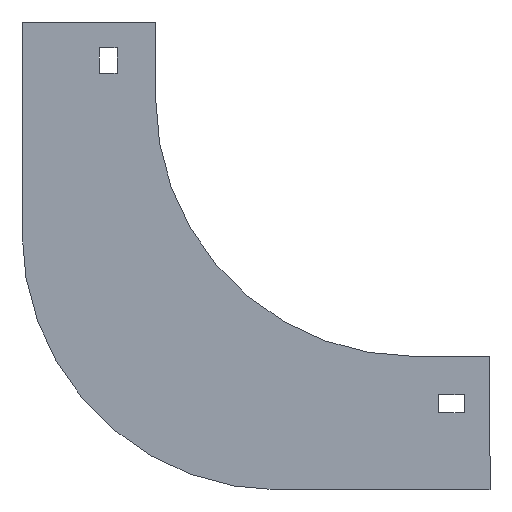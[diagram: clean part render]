
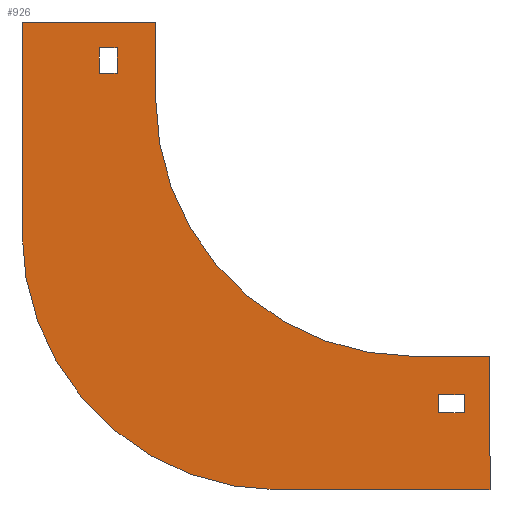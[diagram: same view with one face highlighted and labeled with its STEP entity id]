
A CAD part, left-side view. The second image highlights one B-rep face of the part: STEP entity #926.
In plain terms, the highlighted planar face has unit normal (-1, 0, 0).
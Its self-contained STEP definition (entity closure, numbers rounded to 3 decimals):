
#10 = VERTEX_POINT ( 'NONE', #1020 ) ;
#14 = ORIENTED_EDGE ( 'NONE', *, *, #533, .F. ) ;
#21 = FACE_BOUND ( 'NONE', #855, .T. ) ;
#28 = DIRECTION ( 'NONE',  ( -1., 0., 0. ) ) ;
#40 = ORIENTED_EDGE ( 'NONE', *, *, #1207, .F. ) ;
#46 = AXIS2_PLACEMENT_3D ( 'NONE', #1021, #1308, #354 ) ;
#58 = DIRECTION ( 'NONE',  ( 0., -1., 0. ) ) ;
#73 = CARTESIAN_POINT ( 'NONE',  ( -52., 22., -10. ) ) ;
#78 = LINE ( 'NONE', #917, #619 ) ;
#84 = DIRECTION ( 'NONE',  ( 0., -1., 0. ) ) ;
#85 = LINE ( 'NONE', #333, #1075 ) ;
#123 = CARTESIAN_POINT ( 'NONE',  ( -52., -110., -152. ) ) ;
#129 = VECTOR ( 'NONE', #727, 1000. ) ;
#135 = DIRECTION ( 'NONE',  ( 0., 0., -1. ) ) ;
#151 = CARTESIAN_POINT ( 'NONE',  ( -52., 15., -10. ) ) ;
#159 = CARTESIAN_POINT ( 'NONE',  ( -52., -110., -145. ) ) ;
#161 = EDGE_CURVE ( 'NONE', #1352, #991, #516, .T. ) ;
#169 = CIRCLE ( 'NONE', #193, 100. ) ;
#193 = AXIS2_PLACEMENT_3D ( 'NONE', #885, #28, #702 ) ;
#197 = CARTESIAN_POINT ( 'NONE',  ( -52., 15., -20. ) ) ;
#210 = EDGE_CURVE ( 'NONE', #1405, #1056, #1250, .T. ) ;
#212 = VECTOR ( 'NONE', #1154, 1000. ) ;
#229 = CARTESIAN_POINT ( 'NONE',  ( -52., -130., -130. ) ) ;
#230 = CARTESIAN_POINT ( 'NONE',  ( -52., -48., -82. ) ) ;
#244 = LINE ( 'NONE', #784, #466 ) ;
#254 = LINE ( 'NONE', #906, #309 ) ;
#256 = VERTEX_POINT ( 'NONE', #666 ) ;
#264 = DIRECTION ( 'NONE',  ( 0., 0., -1. ) ) ;
#267 = DIRECTION ( 'NONE',  ( 0., 0., -1. ) ) ;
#274 = CARTESIAN_POINT ( 'NONE',  ( -52., -100., -130. ) ) ;
#278 = VERTEX_POINT ( 'NONE', #859 ) ;
#295 = LINE ( 'NONE', #1043, #212 ) ;
#306 = ORIENTED_EDGE ( 'NONE', *, *, #1263, .F. ) ;
#309 = VECTOR ( 'NONE', #267, 1000. ) ;
#312 = ORIENTED_EDGE ( 'NONE', *, *, #986, .F. ) ;
#313 = AXIS2_PLACEMENT_3D ( 'NONE', #230, #355, #658 ) ;
#332 = VECTOR ( 'NONE', #84, 1000. ) ;
#333 = CARTESIAN_POINT ( 'NONE',  ( -52., 52., -82. ) ) ;
#354 = DIRECTION ( 'NONE',  ( 0., 0., 1. ) ) ;
#355 = DIRECTION ( 'NONE',  ( 1., 0., 0. ) ) ;
#363 = VECTOR ( 'NONE', #264, 1000. ) ;
#392 = DIRECTION ( 'NONE',  ( 0., 1., 0. ) ) ;
#399 = VERTEX_POINT ( 'NONE', #483 ) ;
#404 = VERTEX_POINT ( 'NONE', #159 ) ;
#410 = CARTESIAN_POINT ( 'NONE',  ( -52., 52., 0. ) ) ;
#450 = ORIENTED_EDGE ( 'NONE', *, *, #1397, .F. ) ;
#451 = ORIENTED_EDGE ( 'NONE', *, *, #962, .F. ) ;
#466 = VECTOR ( 'NONE', #686, 1000. ) ;
#476 = ORIENTED_EDGE ( 'NONE', *, *, #1353, .F. ) ;
#483 = CARTESIAN_POINT ( 'NONE',  ( -52., -130., -182. ) ) ;
#484 = DIRECTION ( 'NONE',  ( 0., -1., 0. ) ) ;
#513 = CARTESIAN_POINT ( 'NONE',  ( -52., 22., -10. ) ) ;
#516 = CIRCLE ( 'NONE', #313, 100. ) ;
#533 = EDGE_CURVE ( 'NONE', #256, #1160, #295, .T. ) ;
#535 = VECTOR ( 'NONE', #135, 1000. ) ;
#563 = DIRECTION ( 'NONE',  ( 0., 0., 1. ) ) ;
#619 = VECTOR ( 'NONE', #392, 1000. ) ;
#627 = LINE ( 'NONE', #836, #332 ) ;
#645 = VERTEX_POINT ( 'NONE', #513 ) ;
#656 = EDGE_CURVE ( 'NONE', #900, #256, #627, .T. ) ;
#658 = DIRECTION ( 'NONE',  ( 0., 0., -1. ) ) ;
#661 = ORIENTED_EDGE ( 'NONE', *, *, #161, .F. ) ;
#666 = CARTESIAN_POINT ( 'NONE',  ( -52., -120., -152. ) ) ;
#670 = ORIENTED_EDGE ( 'NONE', *, *, #1134, .F. ) ;
#686 = DIRECTION ( 'NONE',  ( 0., 1., 0. ) ) ;
#695 = CARTESIAN_POINT ( 'NONE',  ( -52., 15., -10. ) ) ;
#701 = ORIENTED_EDGE ( 'NONE', *, *, #656, .F. ) ;
#702 = DIRECTION ( 'NONE',  ( 0., 0., 1. ) ) ;
#720 = EDGE_LOOP ( 'NONE', ( #1307, #1390, #911, #1082 ) ) ;
#724 = VERTEX_POINT ( 'NONE', #229 ) ;
#726 = VECTOR ( 'NONE', #484, 1000. ) ;
#727 = DIRECTION ( 'NONE',  ( 0., -1., 0. ) ) ;
#740 = LINE ( 'NONE', #874, #1404 ) ;
#746 = CARTESIAN_POINT ( 'NONE',  ( -52., -100., -130. ) ) ;
#755 = ORIENTED_EDGE ( 'NONE', *, *, #850, .F. ) ;
#784 = CARTESIAN_POINT ( 'NONE',  ( -52., -120., -145. ) ) ;
#788 = FACE_OUTER_BOUND ( 'NONE', #802, .T. ) ;
#794 = VERTEX_POINT ( 'NONE', #1018 ) ;
#802 = EDGE_LOOP ( 'NONE', ( #451, #40, #661, #312, #450, #476, #755, #670 ) ) ;
#809 = CARTESIAN_POINT ( 'NONE',  ( -52., 52., -82. ) ) ;
#836 = CARTESIAN_POINT ( 'NONE',  ( -52., -120., -152. ) ) ;
#838 = LINE ( 'NONE', #410, #1070 ) ;
#846 = CARTESIAN_POINT ( 'NONE',  ( -52., 22., -10. ) ) ;
#850 = EDGE_CURVE ( 'NONE', #794, #1115, #169, .T. ) ;
#855 = EDGE_LOOP ( 'NONE', ( #306, #14, #701, #1382 ) ) ;
#859 = CARTESIAN_POINT ( 'NONE',  ( -52., 0., 0. ) ) ;
#860 = DIRECTION ( 'NONE',  ( 0., 1., 0. ) ) ;
#874 = CARTESIAN_POINT ( 'NONE',  ( -52., 22., -20. ) ) ;
#875 = EDGE_CURVE ( 'NONE', #404, #900, #1099, .T. ) ;
#885 = CARTESIAN_POINT ( 'NONE',  ( -52., -100., -30. ) ) ;
#900 = VERTEX_POINT ( 'NONE', #1128 ) ;
#906 = CARTESIAN_POINT ( 'NONE',  ( -52., -130., -130. ) ) ;
#911 = ORIENTED_EDGE ( 'NONE', *, *, #1130, .T. ) ;
#917 = CARTESIAN_POINT ( 'NONE',  ( -52., -130., -182. ) ) ;
#926 = ADVANCED_FACE ( 'NONE', ( #1000, #788, #21 ), #1221, .T. ) ;
#962 = EDGE_CURVE ( 'NONE', #1003, #278, #838, .T. ) ;
#981 = CARTESIAN_POINT ( 'NONE',  ( -52., 0., 0. ) ) ;
#986 = EDGE_CURVE ( 'NONE', #399, #1352, #78, .T. ) ;
#991 = VERTEX_POINT ( 'NONE', #809 ) ;
#1000 = FACE_BOUND ( 'NONE', #720, .T. ) ;
#1003 = VERTEX_POINT ( 'NONE', #1135 ) ;
#1016 = LINE ( 'NONE', #274, #726 ) ;
#1018 = CARTESIAN_POINT ( 'NONE',  ( -52., 0., -30. ) ) ;
#1020 = CARTESIAN_POINT ( 'NONE',  ( -52., 22., -20. ) ) ;
#1021 = CARTESIAN_POINT ( 'NONE',  ( -52., -100., -30. ) ) ;
#1043 = CARTESIAN_POINT ( 'NONE',  ( -52., -120., -152. ) ) ;
#1051 = LINE ( 'NONE', #846, #1229 ) ;
#1056 = VERTEX_POINT ( 'NONE', #197 ) ;
#1060 = EDGE_CURVE ( 'NONE', #645, #1405, #1148, .T. ) ;
#1070 = VECTOR ( 'NONE', #58, 1000. ) ;
#1075 = VECTOR ( 'NONE', #1180, 1000. ) ;
#1080 = CARTESIAN_POINT ( 'NONE',  ( -52., -120., -145. ) ) ;
#1082 = ORIENTED_EDGE ( 'NONE', *, *, #1105, .T. ) ;
#1088 = LINE ( 'NONE', #981, #1114 ) ;
#1099 = LINE ( 'NONE', #123, #363 ) ;
#1105 = EDGE_CURVE ( 'NONE', #10, #645, #1051, .T. ) ;
#1114 = VECTOR ( 'NONE', #1186, 1000. ) ;
#1115 = VERTEX_POINT ( 'NONE', #746 ) ;
#1128 = CARTESIAN_POINT ( 'NONE',  ( -52., -110., -152. ) ) ;
#1130 = EDGE_CURVE ( 'NONE', #1056, #10, #740, .T. ) ;
#1134 = EDGE_CURVE ( 'NONE', #278, #794, #1088, .T. ) ;
#1135 = CARTESIAN_POINT ( 'NONE',  ( -52., 52., 0. ) ) ;
#1148 = LINE ( 'NONE', #73, #129 ) ;
#1154 = DIRECTION ( 'NONE',  ( 0., 0., 1. ) ) ;
#1160 = VERTEX_POINT ( 'NONE', #1080 ) ;
#1180 = DIRECTION ( 'NONE',  ( 0., 0., 1. ) ) ;
#1186 = DIRECTION ( 'NONE',  ( 0., 0., -1. ) ) ;
#1207 = EDGE_CURVE ( 'NONE', #991, #1003, #85, .T. ) ;
#1221 = PLANE ( 'NONE',  #46 ) ;
#1229 = VECTOR ( 'NONE', #563, 1000. ) ;
#1250 = LINE ( 'NONE', #151, #535 ) ;
#1263 = EDGE_CURVE ( 'NONE', #1160, #404, #244, .T. ) ;
#1307 = ORIENTED_EDGE ( 'NONE', *, *, #1060, .T. ) ;
#1308 = DIRECTION ( 'NONE',  ( -1., 0., 0. ) ) ;
#1318 = CARTESIAN_POINT ( 'NONE',  ( -52., -48., -182. ) ) ;
#1352 = VERTEX_POINT ( 'NONE', #1318 ) ;
#1353 = EDGE_CURVE ( 'NONE', #1115, #724, #1016, .T. ) ;
#1382 = ORIENTED_EDGE ( 'NONE', *, *, #875, .F. ) ;
#1390 = ORIENTED_EDGE ( 'NONE', *, *, #210, .T. ) ;
#1397 = EDGE_CURVE ( 'NONE', #724, #399, #254, .T. ) ;
#1404 = VECTOR ( 'NONE', #860, 1000. ) ;
#1405 = VERTEX_POINT ( 'NONE', #695 ) ;
